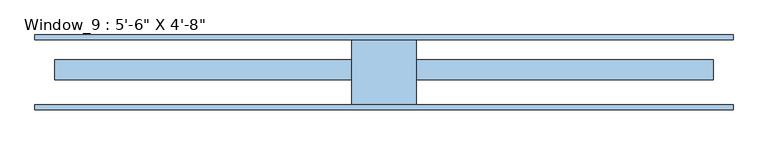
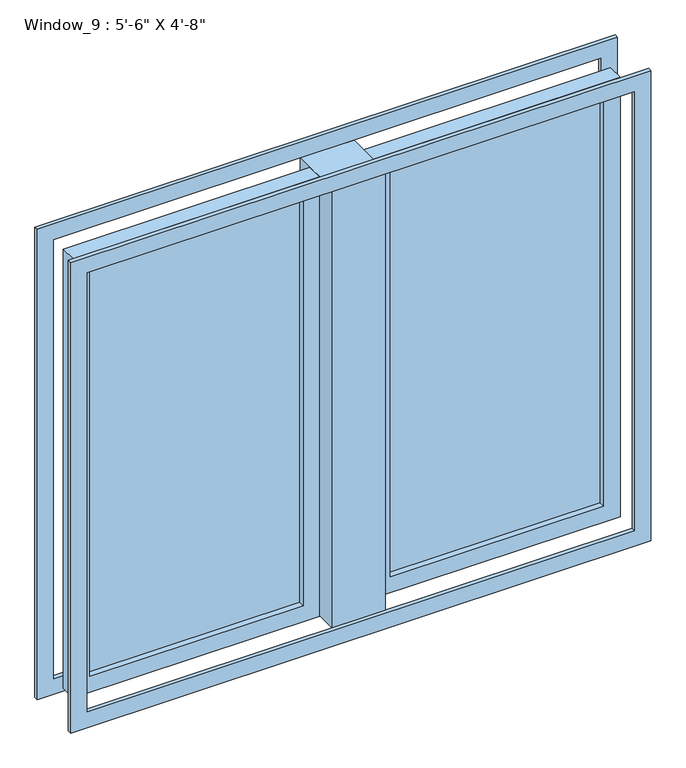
"""IFC4 building model written with IfcOpenShell, lengths in millimetres: window geometry."""

from ifc_helpers import new_model, si_unit, frame, origin, place, context, project, spatial, polyline, outline, extrude, source, transform, mapped, element, save


def window_eebe5252(model_context):
    return source(origin(), model_context, "Body", "SweptSolid", [
        extrude(outline(polyline([(-69.85, 82.55), (95.25, 82.55), (95.25, -82.55), (-69.85, -82.55), (-69.85, 82.55)])), frame((0.0, 0.0, 812.8), z_axis=(0.0, 0.0, 1.0), x_axis=(1.0, 0.0, 0.0)), (0.0, 0.0, 1.0), 1422.4),
        extrude(outline(polyline([(800.1, 0.0), (146.05, 0.0), (146.05, 12.7), (800.1, 12.7), (800.1, 0.0)])), frame((0.0, 0.0, 863.6), z_axis=(0.0, 0.0, 1.0), x_axis=(1.0, 0.0, 0.0)), (0.0, 0.0, 1.0), 1320.8),
        extrude(outline(polyline([(-120.65, 0.0), (-774.7, 0.0), (-774.7, 12.7), (-120.65, 12.7), (-120.65, 0.0)])), frame((0.0, 0.0, 863.6), z_axis=(0.0, 0.0, 1.0), x_axis=(1.0, 0.0, 0.0)), (0.0, 0.0, 1.0), 1320.8),
        extrude(outline(polyline([(2235.2, 95.25), (812.8, 95.25), (812.8, 850.9), (2235.2, 850.9), (2235.2, 95.25)]), holes=[polyline([(2184.4, 146.05), (2184.4, 800.1), (863.6, 800.1), (863.6, 146.05), (2184.4, 146.05)])]), frame((0.0, -19.05, 0.0), z_axis=(0.0, 1.0, 0.0), x_axis=(0.0, 0.0, 1.0)), (0.0, 0.0, 1.0), 50.8),
        extrude(outline(polyline([(812.8, -825.5), (812.8, -69.85), (2235.2, -69.85), (2235.2, -825.5), (812.8, -825.5)]), holes=[polyline([(863.6, -774.7), (2184.4, -774.7), (2184.4, -120.65), (863.6, -120.65), (863.6, -774.7)])]), frame((0.0, -19.05, 0.0), z_axis=(0.0, 1.0, 0.0), x_axis=(0.0, 0.0, 1.0)), (0.0, 0.0, 1.0), 50.8),
        extrude(outline(polyline([(2286.0, -876.3), (762.0, -876.3), (762.0, 901.7), (2286.0, 901.7), (2286.0, -876.3)]), holes=[polyline([(2235.2, -825.5), (2235.2, 850.9), (812.8, 850.9), (812.8, -825.5), (2235.2, -825.5)])]), frame((0.0, 82.55, 0.0), z_axis=(0.0, 1.0, 0.0), x_axis=(0.0, 0.0, 1.0)), (0.0, 0.0, 1.0), 12.7),
        extrude(outline(polyline([(2286.0, -876.3), (762.0, -876.3), (762.0, 901.7), (2286.0, 901.7), (2286.0, -876.3)]), holes=[polyline([(812.8, 850.9), (812.8, -825.5), (2235.2, -825.5), (2235.2, 850.9), (812.8, 850.9)])]), frame((0.0, -95.25, 0.0), z_axis=(0.0, 1.0, 0.0), x_axis=(0.0, 0.0, 1.0)), (0.0, 0.0, 1.0), 12.7),
    ])


if __name__ == "__main__":
    model = new_model("IFC4")
    model_context = context("Model", 3, world=origin())
    ifc_project = project(units=[si_unit("LENGTHUNIT", "METRE", prefix="MILLI")], contexts=[model_context])
    site = spatial("IfcSite", under=ifc_project)
    building = spatial("IfcBuilding", under=site)
    placement = place(None, origin())
    window_shape = window_eebe5252(model_context)
    element("IfcWindow", 1, ObjectType="Window_9 : 5'-6\" X 4'-8\"", at=placement, inside=building, context=model_context, shape_type="MappedRepresentation", body=[
        mapped(window_shape, transform((0.0, 0.0, 0.0), x_axis=(1.0, 0.0, 0.0), y_axis=(0.0, 1.0, 0.0), z_axis=(0.0, 0.0, 1.0))),
    ])
    save(model, "model.ifc")
